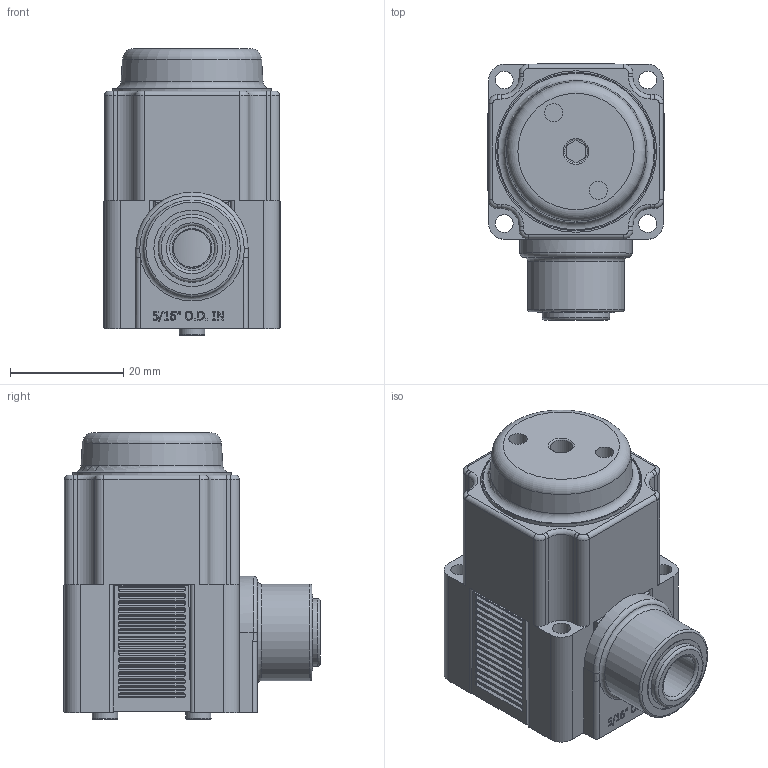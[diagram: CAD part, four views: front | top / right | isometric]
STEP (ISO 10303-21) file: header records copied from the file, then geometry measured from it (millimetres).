
FILE_DESCRIPTION(/* description */ (''),/* implementation_level */ '2;1');
FILE_NAME(/* name */ 'K:\Normteile INVENTOR\Air-Logic\Regulators\PR6000\PR 6___ 6 Push-In Fitting for 5''16 O.D. Tube In.igs.ipt.stp',/* time_stamp */ '2020-05-27T10:53:03+02:00',/* author */ ('Paul'),/* organization */ (''),/* preprocessor_version */ 'ST-DEVELOPER v18',/* originating_system */ 'Autodesk Inventor 2020',/* authorisation */ '');
FILE_SCHEMA (('AUTOMOTIVE_DESIGN { 1 0 10303 214 3 1 1 }'));
Length unit declared in the file: inch
Products named in the file (1): PR 6___ 6 Push-In Fitting for 5'16 O.D. Tube In.igs
Bounding box: 31.19 x 45.41 x 50.78 mm (x, y, z)
Volume: 41891.7 mm3; surface area: 14455.9 mm2
Topology: 1 solids, 1 shells, 799 faces, 2070 edges, 1364 vertices
Faces by surface type: plane 411, cylinder 274, bspline 77, torus 34, cone 3
Full cylindrical faces by diameter (mm): 1.194 x1, 2.032 x1, 3.124 x2, 3.175 x8, 3.226 x2, 4.013 x1, 4.521 x2, 7.061 x1, 8.001 x1, 8.382 x2, 9.169 x1, 9.398 x1, 11.972 x1, 12.014 x1, 12.903 x1, 13.513 x1, 17.094 x1, 25.781 x1, 28.047 x1, 28.575 x1
Entity records: 28566 total; most frequent: CARTESIAN_POINT 8012, ORIENTED_EDGE 4140, DIRECTION 4096, EDGE_CURVE 2070, AXIS2_PLACEMENT_3D 1552, VERTEX_POINT 1364, LINE 992, VECTOR 992
